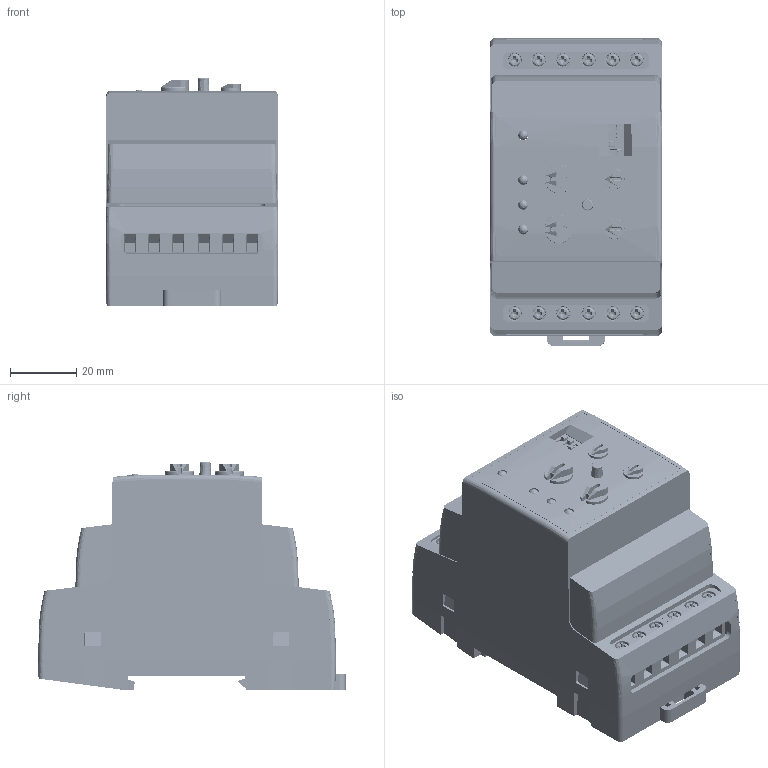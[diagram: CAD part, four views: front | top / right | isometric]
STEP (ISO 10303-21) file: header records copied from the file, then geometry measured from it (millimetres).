
FILE_DESCRIPTION (( 'STEP AP214' ), '1' );
FILE_NAME ('OptiRel C RV-43.STEP', '2019-06-24T09:44:11', ( '' ), ( '' ), 'SwSTEP 2.0', 'SolidWorks 2018', '' );
FILE_SCHEMA (( 'AUTOMOTIVE_DESIGN' ));
Length unit declared in the file: millimetre
Products named in the file (1): OptiRel C RV-43
Bounding box: 52 x 93 x 68.76 mm (x, y, z)
Surface area: 63028.1 mm2 (no closed solid volume)
Topology: 0 solids, 1751 shells, 2632 faces, 11715 edges, 10828 vertices
Faces by surface type: bspline 1632, plane 1000
Entity records: 186127 total; most frequent: CARTESIAN_POINT 126147, ORIENTED_EDGE 14052, EDGE_CURVE 11673, VERTEX_POINT 10828, B_SPLINE_CURVE_WITH_KNOTS 8970, EDGE_LOOP 2759, FACE_OUTER_BOUND 2632, ADVANCED_FACE 2632
